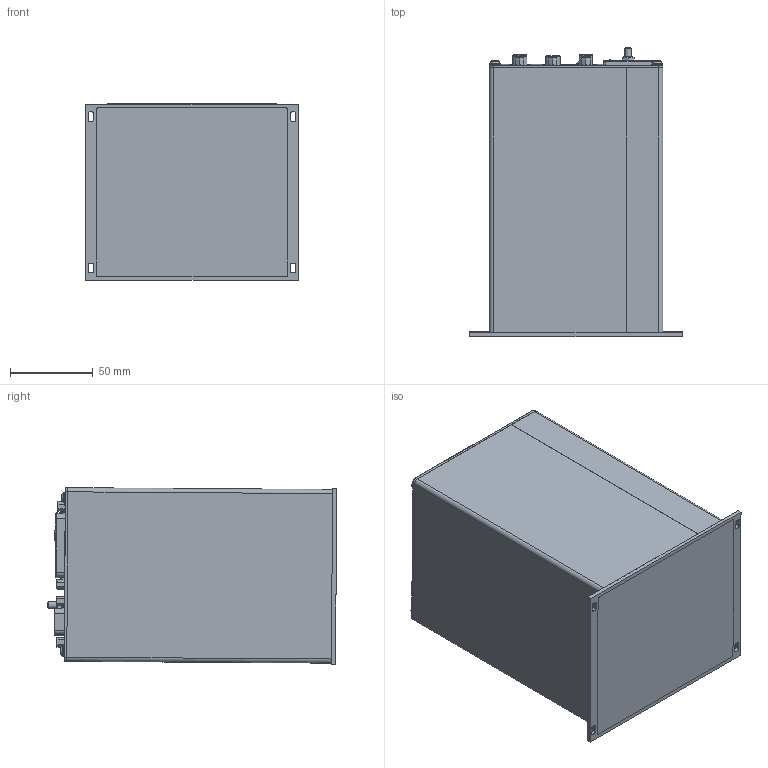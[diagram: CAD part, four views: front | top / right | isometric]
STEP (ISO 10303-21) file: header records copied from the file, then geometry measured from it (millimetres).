
FILE_DESCRIPTION((''),'2;1');
FILE_NAME('P:\Projekte OLV\Combivac CM 51\Gehäuse mit Front- und Rückplatte\Inventor_Projekt_CM 51\COMBIVAC CM51PB.stp','2011-03-15T15:36:18',('BA'),(''),'Autodesk Inventor 2011','Autodesk Inventor 2011','');
FILE_SCHEMA(('CONFIG_CONTROL_DESIGN'));
Length unit declared in the file: millimetre
Products named in the file (1): Bauteil12
Bounding box: 128.4 x 174.99 x 106.8 mm (x, y, z)
Volume: 332294 mm3; surface area: 312565 mm2
Topology: 56 solids, 56 shells, 3192 faces, 8296 edges, 5278 vertices
Faces by surface type: plane 2074, cylinder 694, cone 230, torus 102, bspline 73, sphere 19
Full cylindrical faces by diameter (mm): 1 x1, 1.067 x40, 1.118 x18, 1.4 x6, 2.156 x8, 2.21 x76, 2.5 x1, 2.606 x8, 2.693 x4, 3 x9, 3.048 x8, 3.1 x3, 3.242 x1, 3.5 x10, 4 x3, 4.3 x1, 5.5 x5, 5.7 x4, 9 x2, 10 x1, 14 x3, 15 x2
Entity records: 100996 total; most frequent: CARTESIAN_POINT 23877, ORIENTED_EDGE 15814, DIRECTION 15504, EDGE_CURVE 7907, VECTOR 5742, LINE 5742, VERTEX_POINT 5256, AXIS2_PLACEMENT_3D 4881
